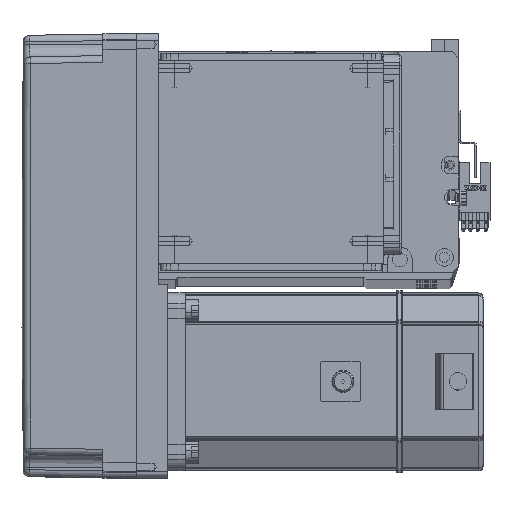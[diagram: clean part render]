
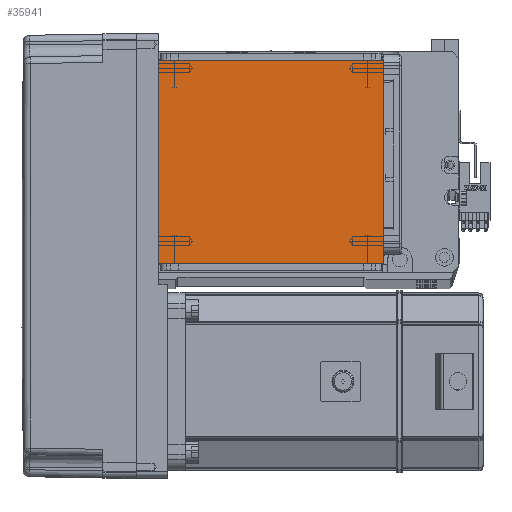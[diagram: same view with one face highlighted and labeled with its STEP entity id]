
A CAD part, top view. The second image highlights one B-rep face of the part: STEP entity #35941.
In plain terms, the highlighted planar face has unit normal (0, 0, 1).
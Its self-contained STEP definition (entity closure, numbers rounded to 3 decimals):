
#2824 = VECTOR ( 'NONE', #61882, 1000. ) ;
#2853 = VERTEX_POINT ( 'NONE', #26731 ) ;
#3764 = CARTESIAN_POINT ( 'NONE',  ( -70.004, 20., 115. ) ) ;
#4579 = AXIS2_PLACEMENT_3D ( 'NONE', #60217, #40646, #20690 ) ;
#5853 = EDGE_CURVE ( 'NONE', #2853, #29188, #8199, .T. ) ;
#8199 = LINE ( 'NONE', #3764, #2824 ) ;
#9289 = VECTOR ( 'NONE', #38312, 1000. ) ;
#11035 = ORIENTED_EDGE ( 'NONE', *, *, #16042, .F. ) ;
#11442 = EDGE_CURVE ( 'NONE', #12079, #29188, #12332, .T. ) ;
#12079 = VERTEX_POINT ( 'NONE', #36633 ) ;
#12332 = LINE ( 'NONE', #29275, #9289 ) ;
#16042 = EDGE_CURVE ( 'NONE', #12079, #36703, #33613, .T. ) ;
#18088 = CARTESIAN_POINT ( 'NONE',  ( 50.5, 122., 115. ) ) ;
#20583 = VECTOR ( 'NONE', #46892, 1000. ) ;
#20690 = DIRECTION ( 'NONE',  ( 1., 0., 0. ) ) ;
#25939 = ORIENTED_EDGE ( 'NONE', *, *, #32724, .T. ) ;
#26731 = CARTESIAN_POINT ( 'NONE',  ( 50.5, 20., 115. ) ) ;
#27224 = CARTESIAN_POINT ( 'NONE',  ( -70.004, 111.5, 115. ) ) ;
#27611 = CARTESIAN_POINT ( 'NONE',  ( -50.5, 20., 115. ) ) ;
#29188 = VERTEX_POINT ( 'NONE', #27611 ) ;
#29275 = CARTESIAN_POINT ( 'NONE',  ( -50.5, 122., 115. ) ) ;
#31994 = LINE ( 'NONE', #18088, #61246 ) ;
#32724 = EDGE_CURVE ( 'NONE', #2853, #36703, #31994, .T. ) ;
#33613 = LINE ( 'NONE', #27224, #20583 ) ;
#35494 = PLANE ( 'NONE',  #4579 ) ;
#35941 = ADVANCED_FACE ( 'NONE', ( #40917 ), #35494, .T. ) ;
#36633 = CARTESIAN_POINT ( 'NONE',  ( -50.5, 111.5, 115. ) ) ;
#36703 = VERTEX_POINT ( 'NONE', #38566 ) ;
#38305 = ORIENTED_EDGE ( 'NONE', *, *, #5853, .F. ) ;
#38312 = DIRECTION ( 'NONE',  ( 0., -1., 0. ) ) ;
#38566 = CARTESIAN_POINT ( 'NONE',  ( 50.5, 111.5, 115. ) ) ;
#40646 = DIRECTION ( 'NONE',  ( 0., 0., 1. ) ) ;
#40917 = FACE_OUTER_BOUND ( 'NONE', #55464, .T. ) ;
#43204 = DIRECTION ( 'NONE',  ( 0., 1., 0. ) ) ;
#46892 = DIRECTION ( 'NONE',  ( 1., 0., 0. ) ) ;
#55464 = EDGE_LOOP ( 'NONE', ( #11035, #60491, #38305, #25939 ) ) ;
#60217 = CARTESIAN_POINT ( 'NONE',  ( 0., 0., 115. ) ) ;
#60491 = ORIENTED_EDGE ( 'NONE', *, *, #11442, .T. ) ;
#61246 = VECTOR ( 'NONE', #43204, 1000. ) ;
#61882 = DIRECTION ( 'NONE',  ( -1., 0., 0. ) ) ;
